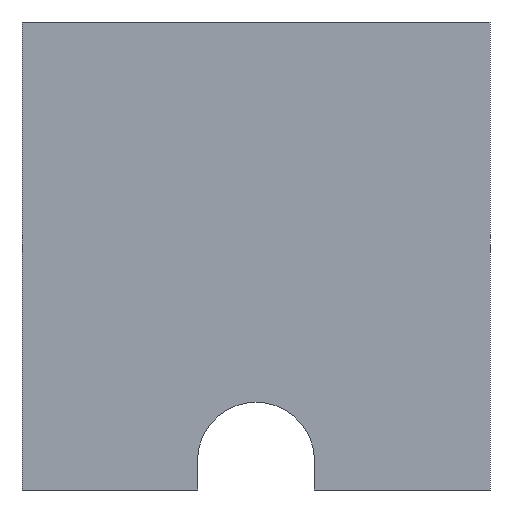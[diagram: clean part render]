
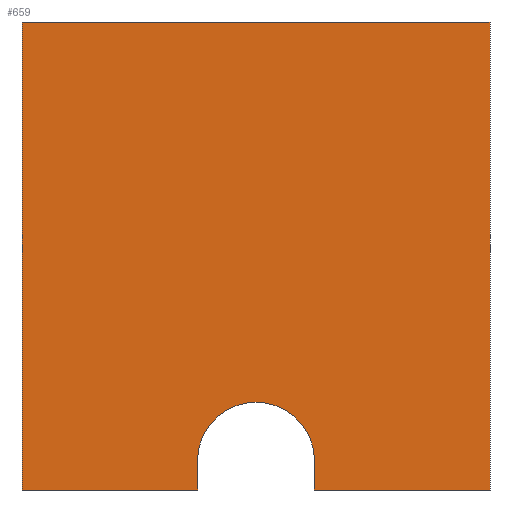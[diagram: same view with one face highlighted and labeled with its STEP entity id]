
A CAD part, front view. The second image highlights one B-rep face of the part: STEP entity #659.
In plain terms, the highlighted planar face has unit normal (0, -1, 0).
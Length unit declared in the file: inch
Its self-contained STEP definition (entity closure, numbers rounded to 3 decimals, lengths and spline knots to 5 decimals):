
#31 = CARTESIAN_POINT ( 'NONE',  ( 1., -1., 2. ) ) ;
#69 = ORIENTED_EDGE ( 'NONE', *, *, #756, .T. ) ;
#93 = VERTEX_POINT ( 'NONE', #642 ) ;
#123 = ORIENTED_EDGE ( 'NONE', *, *, #1301, .T. ) ;
#137 = VERTEX_POINT ( 'NONE', #31 ) ;
#148 = ORIENTED_EDGE ( 'NONE', *, *, #1311, .T. ) ;
#284 = DIRECTION ( 'NONE',  ( 0., 0., 1. ) ) ;
#285 = CARTESIAN_POINT ( 'NONE',  ( 0., -1., 0.125 ) ) ;
#287 = ORIENTED_EDGE ( 'NONE', *, *, #970, .F. ) ;
#294 = DIRECTION ( 'NONE',  ( 0., 1., 0. ) ) ;
#306 = VERTEX_POINT ( 'NONE', #412 ) ;
#312 = DIRECTION ( 'NONE',  ( 0., 0., -1. ) ) ;
#319 = DIRECTION ( 'NONE',  ( 0., 0., -1. ) ) ;
#334 = CARTESIAN_POINT ( 'NONE',  ( 0.25, -1., -0.125 ) ) ;
#355 = VERTEX_POINT ( 'NONE', #464 ) ;
#368 = DIRECTION ( 'NONE',  ( 0., 0., 1. ) ) ;
#370 = CARTESIAN_POINT ( 'NONE',  ( -1., -1., 2. ) ) ;
#381 = ORIENTED_EDGE ( 'NONE', *, *, #1280, .T. ) ;
#384 = DIRECTION ( 'NONE',  ( 1., 0., 0. ) ) ;
#389 = VERTEX_POINT ( 'NONE', #502 ) ;
#405 = CARTESIAN_POINT ( 'NONE',  ( -1., -1., 0. ) ) ;
#412 = CARTESIAN_POINT ( 'NONE',  ( -0.25, -1., 0.125 ) ) ;
#424 = VECTOR ( 'NONE', #440, 39.37008 ) ;
#440 = DIRECTION ( 'NONE',  ( 1., 0., 0. ) ) ;
#445 = VECTOR ( 'NONE', #384, 39.37008 ) ;
#464 = CARTESIAN_POINT ( 'NONE',  ( -1., -1., 0. ) ) ;
#502 = CARTESIAN_POINT ( 'NONE',  ( 0.25, -1., 0. ) ) ;
#553 = LINE ( 'NONE', #370, #445 ) ;
#620 = LINE ( 'NONE', #1029, #741 ) ;
#642 = CARTESIAN_POINT ( 'NONE',  ( -1., -1., 2. ) ) ;
#659 = ADVANCED_FACE ( 'NONE', ( #1344 ), #1009, .F. ) ;
#701 = VERTEX_POINT ( 'NONE', #1173 ) ;
#741 = VECTOR ( 'NONE', #1025, 39.37008 ) ;
#756 = EDGE_CURVE ( 'NONE', #899, #701, #1408, .T. ) ;
#773 = CARTESIAN_POINT ( 'NONE',  ( 1., -1., 0. ) ) ;
#824 = LINE ( 'NONE', #405, #424 ) ;
#840 = AXIS2_PLACEMENT_3D ( 'NONE', #285, #294, #368 ) ;
#842 = EDGE_CURVE ( 'NONE', #389, #1250, #941, .T. ) ;
#861 = VECTOR ( 'NONE', #284, 39.37008 ) ;
#867 = ORIENTED_EDGE ( 'NONE', *, *, #842, .T. ) ;
#877 = LINE ( 'NONE', #1379, #861 ) ;
#895 = VECTOR ( 'NONE', #312, 39.37008 ) ;
#899 = VERTEX_POINT ( 'NONE', #1057 ) ;
#924 = LINE ( 'NONE', #334, #895 ) ;
#929 = EDGE_LOOP ( 'NONE', ( #381, #123, #69, #148, #867, #287, #1287, #1291, #1216 ) ) ;
#941 = LINE ( 'NONE', #1061, #1294 ) ;
#961 = CARTESIAN_POINT ( 'NONE',  ( -1., -1., 2. ) ) ;
#970 = EDGE_CURVE ( 'NONE', #137, #1250, #620, .T. ) ;
#976 = AXIS2_PLACEMENT_3D ( 'NONE', #1085, #1084, #1082 ) ;
#989 = CIRCLE ( 'NONE', #840, 0.25 ) ;
#1003 = DIRECTION ( 'NONE',  ( 0., 0., 1. ) ) ;
#1007 = DIRECTION ( 'NONE',  ( 0., 1., 0. ) ) ;
#1008 = VECTOR ( 'NONE', #319, 39.37008 ) ;
#1009 = PLANE ( 'NONE',  #1182 ) ;
#1025 = DIRECTION ( 'NONE',  ( 0., 0., -1. ) ) ;
#1029 = CARTESIAN_POINT ( 'NONE',  ( 1., -1., 2. ) ) ;
#1051 = DIRECTION ( 'NONE',  ( 1., 0., 0. ) ) ;
#1057 = CARTESIAN_POINT ( 'NONE',  ( 0., -1., 0.375 ) ) ;
#1061 = CARTESIAN_POINT ( 'NONE',  ( -1., -1., 0. ) ) ;
#1079 = CARTESIAN_POINT ( 'NONE',  ( -1., -1., 2. ) ) ;
#1082 = DIRECTION ( 'NONE',  ( 0., 0., 1. ) ) ;
#1084 = DIRECTION ( 'NONE',  ( 0., 1., 0. ) ) ;
#1085 = CARTESIAN_POINT ( 'NONE',  ( 0., -1., 0.125 ) ) ;
#1124 = VERTEX_POINT ( 'NONE', #1335 ) ;
#1135 = LINE ( 'NONE', #1079, #1008 ) ;
#1173 = CARTESIAN_POINT ( 'NONE',  ( 0.25, -1., 0.125 ) ) ;
#1182 = AXIS2_PLACEMENT_3D ( 'NONE', #961, #1007, #1003 ) ;
#1216 = ORIENTED_EDGE ( 'NONE', *, *, #1371, .T. ) ;
#1244 = EDGE_CURVE ( 'NONE', #93, #355, #1135, .T. ) ;
#1250 = VERTEX_POINT ( 'NONE', #773 ) ;
#1280 = EDGE_CURVE ( 'NONE', #1124, #306, #877, .T. ) ;
#1287 = ORIENTED_EDGE ( 'NONE', *, *, #1347, .F. ) ;
#1291 = ORIENTED_EDGE ( 'NONE', *, *, #1244, .T. ) ;
#1294 = VECTOR ( 'NONE', #1051, 39.37008 ) ;
#1301 = EDGE_CURVE ( 'NONE', #306, #899, #989, .T. ) ;
#1311 = EDGE_CURVE ( 'NONE', #701, #389, #924, .T. ) ;
#1335 = CARTESIAN_POINT ( 'NONE',  ( -0.25, -1., 0. ) ) ;
#1344 = FACE_OUTER_BOUND ( 'NONE', #929, .T. ) ;
#1347 = EDGE_CURVE ( 'NONE', #93, #137, #553, .T. ) ;
#1371 = EDGE_CURVE ( 'NONE', #355, #1124, #824, .T. ) ;
#1379 = CARTESIAN_POINT ( 'NONE',  ( -0.25, -1., -0.125 ) ) ;
#1408 = CIRCLE ( 'NONE', #976, 0.25 ) ;
